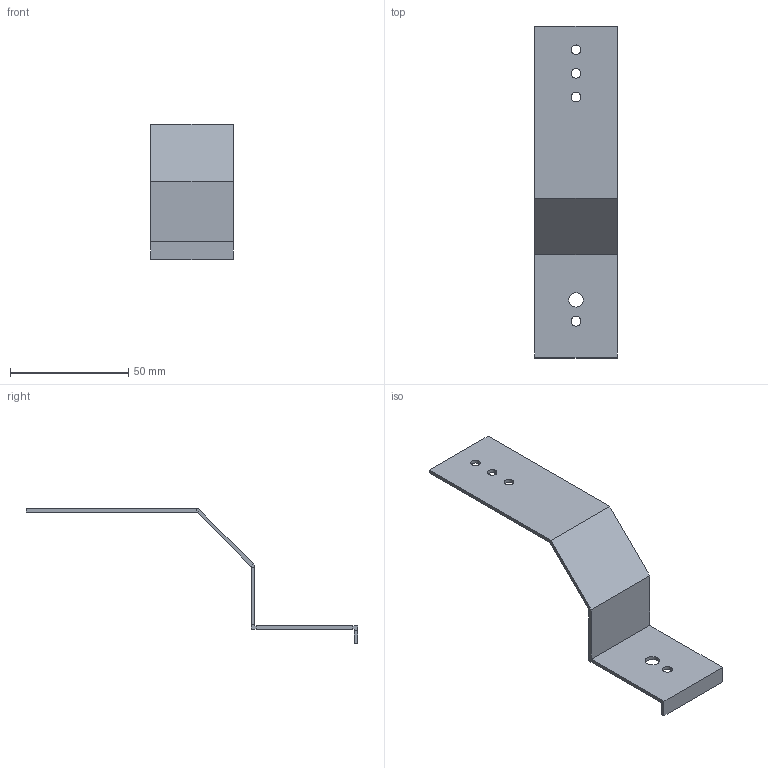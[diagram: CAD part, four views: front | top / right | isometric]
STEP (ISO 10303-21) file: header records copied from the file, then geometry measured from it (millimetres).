
FILE_DESCRIPTION(('Open CASCADE Model'),'2;1');
FILE_NAME('Open CASCADE Shape Model','2026-02-10T10:58:42',('Author'),( 'Open CASCADE'),'Open CASCADE STEP processor 7.8','Open CASCADE 7.8' ,'Unknown');
FILE_SCHEMA(('AUTOMOTIVE_DESIGN { 1 0 10303 214 1 1 1 1 }'));
Length unit declared in the file: millimetre
Products named in the file (1): Solid1
Bounding box: 35 x 140.02 x 57.02 mm (x, y, z)
Volume: 9424.4 mm3; surface area: 13320.8 mm2
Topology: 1 solids, 1 shells, 40 faces, 114 edges, 76 vertices
Faces by surface type: plane 30, cylinder 10
Entity records: 1328 total; most frequent: CARTESIAN_POINT 231, ORIENTED_EDGE 228, DIRECTION 216, EDGE_CURVE 114, LINE 94, VECTOR 94, VERTEX_POINT 76, AXIS2_PLACEMENT_3D 61
